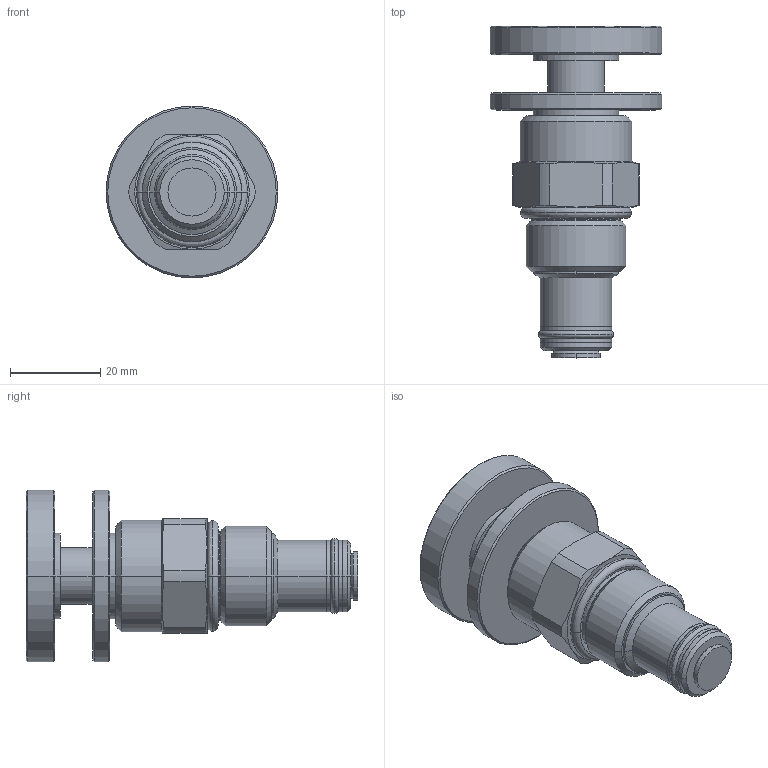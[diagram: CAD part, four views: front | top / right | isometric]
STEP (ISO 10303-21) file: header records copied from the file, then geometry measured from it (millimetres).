
FILE_DESCRIPTION((''),'2;1');
FILE_NAME('FC10-21B','2009-02-03T',('jcs'),(''),'PRO/ENGINEER BY PARAMETRIC TECHNOLOGY CORPORATION, 2008010','PRO/ENGINEER BY PARAMETRIC TECHNOLOGY CORPORATION, 2008010','');
FILE_SCHEMA(('CONFIG_CONTROL_DESIGN'));
Length unit declared in the file: inch
Products named in the file (1): FC10-21B
Bounding box: 38.1 x 73.54 x 38.1 mm (x, y, z)
Volume: 32267.9 mm3; surface area: 11700.9 mm2
Topology: 3 solids, 3 shells, 159 faces, 352 edges, 207 vertices
Faces by surface type: cylinder 46, cone 46, plane 39, revolution 16, torus 12
Entity records: 4814 total; most frequent: CARTESIAN_POINT 1224, DIRECTION 788, ORIENTED_EDGE 700, EDGE_CURVE 350, AXIS2_PLACEMENT_3D 325, VERTEX_POINT 207, CIRCLE 182, EDGE_LOOP 173
